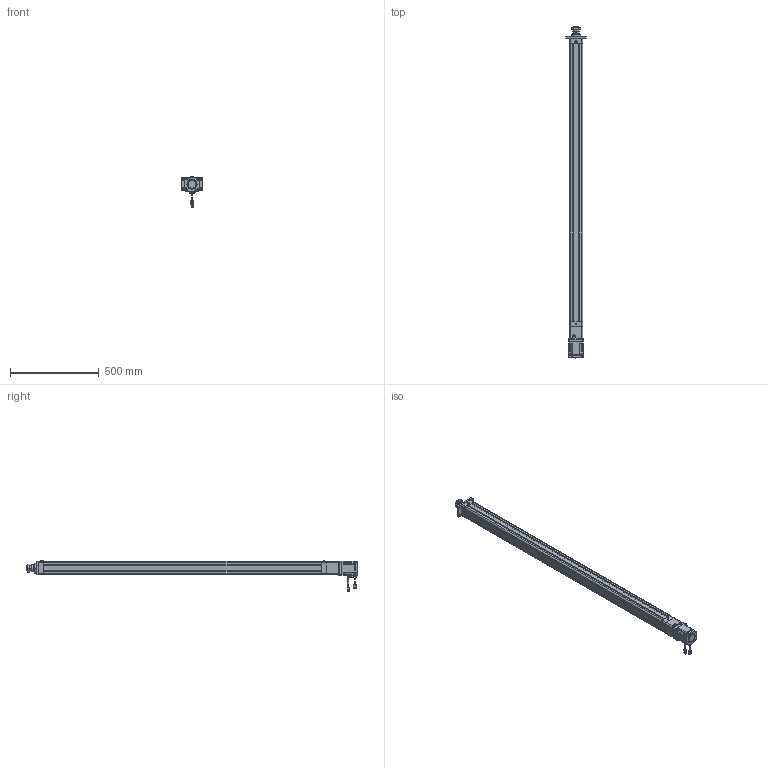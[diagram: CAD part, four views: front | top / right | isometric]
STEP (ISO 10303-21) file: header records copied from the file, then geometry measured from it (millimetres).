
FILE_DESCRIPTION((''),'2;1');
FILE_NAME('HE63-D-100-X1_ASM','2020-04-15T',('ASUS20200'),(''),'CREO PARAMETRIC BY PTC INC, 2014190','CREO PARAMETRIC BY PTC INC, 2014190','');
FILE_SCHEMA(('CONFIG_CONTROL_DESIGN'));
Length unit declared in the file: millimetre
Products named in the file (28): HE63-D-P-001-X1; HE63-D-P-002-X1; HE63-D-P-003-X1; LGLM-M8-22; HE63-D-009-X1; HE63-D-010-X1; M6X16; _MHMF082L1A2; _CABLE_MOTOR_BOTTOM_05; _CABLE_MOTOR_TOP_05; _MOTOR_CONNECTOR_2; _CABLE_BRAKE_BOTTOM_05; _CABLE_BRAKE_TOP_05; _MHMF_CONNECTOR_9_PIN_A6; MHMF082L1A2M2_1_ASM; SLM-01; YZ-M6X1; SKT-16; TD-6; JDB405030; JX6X6X25; HE63-D-P-005-X1; HE63-D-P-004-X1; HE63-D-P-008-X1; M6X25; F-SE63FA; M8X16; HE63-D-100-X1_ASM
Assembly tree (46 placements, depth 3):
  HE63-D-100-X1_ASM
    HE63-D-P-001-X1
    HE63-D-P-002-X1
    HE63-D-P-003-X1
    LGLM-M8-22  x8
    HE63-D-009-X1
    HE63-D-010-X1
    M6X16  x4
    MHMF082L1A2M2_1_ASM
      _MHMF082L1A2
      _CABLE_MOTOR_BOTTOM_05
      _CABLE_MOTOR_TOP_05
      _MOTOR_CONNECTOR_2
      _CABLE_BRAKE_BOTTOM_05
      _CABLE_BRAKE_TOP_05
      _MHMF_CONNECTOR_9_PIN_A6
    SLM-01
    YZ-M6X1
    SKT-16
    TD-6  x4
    JDB405030
    JX6X6X25
    HE63-D-P-005-X1
    HE63-D-P-004-X1
    HE63-D-P-008-X1
    M6X25  x4
    F-SE63FA
    M8X16  x4
Bounding box: 118 x 1866.9 x 179.15 mm (x, y, z)
Volume: 4460728.4 mm3; surface area: 1385060.5 mm2
Topology: 45 solids, 73 shells, 2558 faces, 6213 edges, 3886 vertices
Faces by surface type: plane 1082, cylinder 752, cone 535, torus 142, sphere 44, bspline 3
Entity records: 63333 total; most frequent: CARTESIAN_POINT 11895, DIRECTION 11339, ORIENTED_EDGE 10070, EDGE_CURVE 5085, AXIS2_PLACEMENT_3D 4257, VERTEX_POINT 3207, VECTOR 2825, LINE 2825
